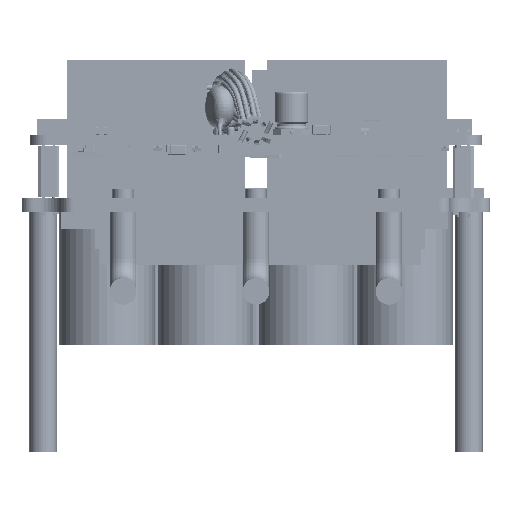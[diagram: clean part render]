
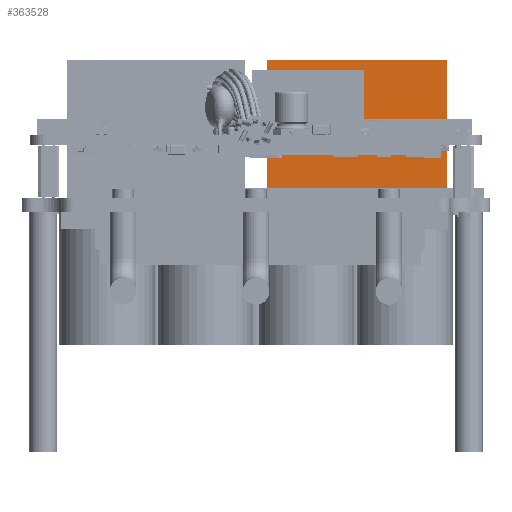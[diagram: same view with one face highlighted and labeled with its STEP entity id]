
A CAD part, left-side view. The second image highlights one B-rep face of the part: STEP entity #363528.
In plain terms, the highlighted planar face has unit normal (-1, 0, 0).
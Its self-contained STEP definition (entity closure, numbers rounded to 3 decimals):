
#28458=DIRECTION('',(0.,1.,0.));
#28459=VECTOR('',#28458,33.972);
#28460=CARTESIAN_POINT('',(132.5,-35.986,0.));
#28461=LINE('',#28460,#28459);
#28462=DIRECTION('',(0.,0.,-1.));
#28463=VECTOR('',#28462,26.);
#28464=CARTESIAN_POINT('',(132.5,-2.014,26.));
#28465=LINE('',#28464,#28463);
#28478=DIRECTION('',(0.,0.,1.));
#28479=VECTOR('',#28478,26.);
#28480=CARTESIAN_POINT('',(132.5,-35.986,0.));
#28481=LINE('',#28480,#28479);
#28510=DIRECTION('',(0.,-1.,0.));
#28511=VECTOR('',#28510,33.972);
#28512=CARTESIAN_POINT('',(132.5,-2.014,26.));
#28513=LINE('',#28512,#28511);
#297771=CARTESIAN_POINT('',(132.5,-35.986,0.));
#297773=VERTEX_POINT('',#297771);
#298462=CARTESIAN_POINT('',(132.5,-2.014,0.));
#298464=VERTEX_POINT('',#298462);
#298533=CARTESIAN_POINT('',(132.5,-2.014,26.));
#298534=CARTESIAN_POINT('',(132.5,-35.986,26.));
#298535=VERTEX_POINT('',#298533);
#298536=VERTEX_POINT('',#298534);
#363514=CARTESIAN_POINT('',(132.5,-21.,0.));
#363515=DIRECTION('',(1.,0.,0.));
#363516=DIRECTION('',(0.,-1.,0.));
#363517=AXIS2_PLACEMENT_3D('',#363514,#363515,#363516);
#363518=PLANE('',#363517);
#363519=ORIENTED_EDGE('',*,*,#338028,.T.);
#363521=ORIENTED_EDGE('',*,*,#363520,.F.);
#363523=ORIENTED_EDGE('',*,*,#363522,.T.);
#363525=ORIENTED_EDGE('',*,*,#363524,.F.);
#363526=EDGE_LOOP('',(#363519,#363521,#363523,#363525));
#363527=FACE_OUTER_BOUND('',#363526,.F.);
#363528=ADVANCED_FACE('',(#363527),#363518,.F.);
#338028=EDGE_CURVE('',#297773,#298464,#28461,.T.);
#363520=EDGE_CURVE('',#298535,#298464,#28465,.T.);
#363522=EDGE_CURVE('',#298535,#298536,#28513,.T.);
#363524=EDGE_CURVE('',#297773,#298536,#28481,.T.);
